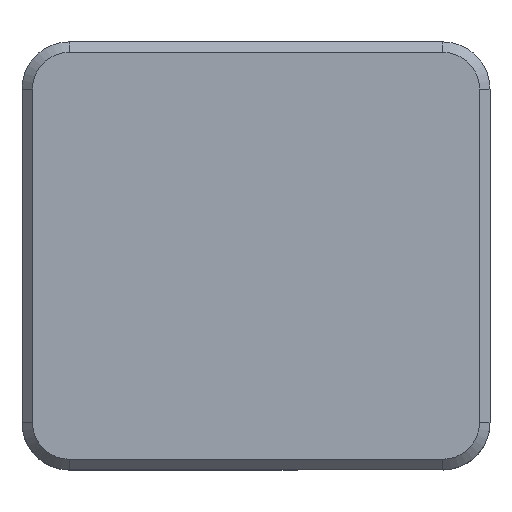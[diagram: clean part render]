
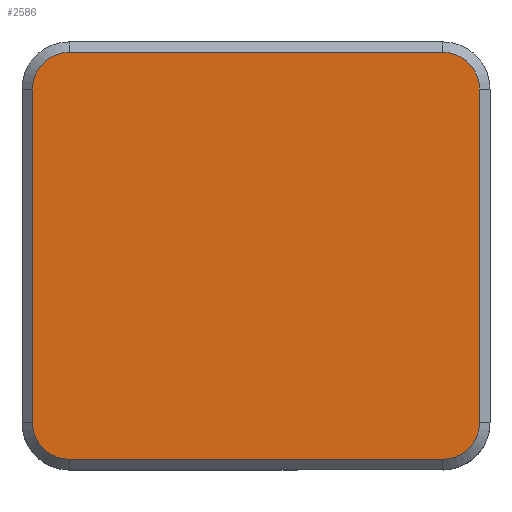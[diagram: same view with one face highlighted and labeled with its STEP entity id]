
A CAD part, top view. The second image highlights one B-rep face of the part: STEP entity #2586.
In plain terms, the highlighted planar face has unit normal (0, 0, 1).
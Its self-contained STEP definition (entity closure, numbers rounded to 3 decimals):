
#100 = PLANE('',#101);
#101 = AXIS2_PLACEMENT_3D('',#102,#103,#104);
#102 = CARTESIAN_POINT('',(-58.815,14.7,47.75));
#103 = DIRECTION('',(0.,0.707,-0.707));
#104 = DIRECTION('',(-1.,-0.,-0.));
#823 = CONICAL_SURFACE('',#824,4.5,0.785);
#824 = AXIS2_PLACEMENT_3D('',#825,#826,#827);
#825 = CARTESIAN_POINT('',(-23.185,18.7,47.25));
#826 = DIRECTION('',(-0.,-0.,-1.));
#827 = DIRECTION('',(0.,-1.,0.));
#839 = VERTEX_POINT('',#840);
#840 = CARTESIAN_POINT('',(-58.815,15.2,48.25));
#853 = CONICAL_SURFACE('',#854,4.5,0.785);
#854 = AXIS2_PLACEMENT_3D('',#855,#856,#857);
#855 = CARTESIAN_POINT('',(-58.815,18.7,47.25));
#856 = DIRECTION('',(-0.,-0.,-1.));
#857 = DIRECTION('',(-1.,0.,0.));
#866 = VERTEX_POINT('',#867);
#867 = CARTESIAN_POINT('',(-23.185,15.2,48.25));
#886 = EDGE_CURVE('',#839,#866,#887,.T.);
#887 = SURFACE_CURVE('',#888,(#892,#899),.PCURVE_S1.);
#888 = LINE('',#889,#890);
#889 = CARTESIAN_POINT('',(-58.815,15.2,48.25));
#890 = VECTOR('',#891,1.);
#891 = DIRECTION('',(1.,0.,0.));
#892 = PCURVE('',#100,#893);
#893 = DEFINITIONAL_REPRESENTATION('',(#894),#898);
#894 = LINE('',#895,#896);
#895 = CARTESIAN_POINT('',(-0.,0.707));
#896 = VECTOR('',#897,1.);
#897 = DIRECTION('',(-1.,0.));
#898 = ( GEOMETRIC_REPRESENTATION_CONTEXT(2) 
PARAMETRIC_REPRESENTATION_CONTEXT() REPRESENTATION_CONTEXT('2D SPACE',''
  ) );
#899 = PCURVE('',#900,#905);
#900 = PLANE('',#901);
#901 = AXIS2_PLACEMENT_3D('',#902,#903,#904);
#902 = CARTESIAN_POINT('',(-41.,34.6,48.25));
#903 = DIRECTION('',(0.,0.,1.));
#904 = DIRECTION('',(1.,0.,-0.));
#905 = DEFINITIONAL_REPRESENTATION('',(#906),#910);
#906 = LINE('',#907,#908);
#907 = CARTESIAN_POINT('',(-17.815,-19.4));
#908 = VECTOR('',#909,1.);
#909 = DIRECTION('',(1.,0.));
#910 = ( GEOMETRIC_REPRESENTATION_CONTEXT(2) 
PARAMETRIC_REPRESENTATION_CONTEXT() REPRESENTATION_CONTEXT('2D SPACE',''
  ) );
#2386 = VERTEX_POINT('',#2387);
#2387 = CARTESIAN_POINT('',(-19.685,18.7,48.25));
#2400 = PLANE('',#2401);
#2401 = AXIS2_PLACEMENT_3D('',#2402,#2403,#2404);
#2402 = CARTESIAN_POINT('',(-19.185,18.7,47.75));
#2403 = DIRECTION('',(-0.707,0.,-0.707));
#2404 = DIRECTION('',(-0.,-1.,-0.));
#2411 = EDGE_CURVE('',#866,#2386,#2412,.T.);
#2412 = SURFACE_CURVE('',#2413,(#2418,#2425),.PCURVE_S1.);
#2413 = CIRCLE('',#2414,3.5);
#2414 = AXIS2_PLACEMENT_3D('',#2415,#2416,#2417);
#2415 = CARTESIAN_POINT('',(-23.185,18.7,48.25));
#2416 = DIRECTION('',(0.,0.,1.));
#2417 = DIRECTION('',(0.,-1.,0.));
#2418 = PCURVE('',#823,#2419);
#2419 = DEFINITIONAL_REPRESENTATION('',(#2420),#2424);
#2420 = LINE('',#2421,#2422);
#2421 = CARTESIAN_POINT('',(-0.,-1.));
#2422 = VECTOR('',#2423,1.);
#2423 = DIRECTION('',(-1.,-0.));
#2424 = ( GEOMETRIC_REPRESENTATION_CONTEXT(2) 
PARAMETRIC_REPRESENTATION_CONTEXT() REPRESENTATION_CONTEXT('2D SPACE',''
  ) );
#2425 = PCURVE('',#900,#2426);
#2426 = DEFINITIONAL_REPRESENTATION('',(#2427),#2431);
#2427 = CIRCLE('',#2428,3.5);
#2428 = AXIS2_PLACEMENT_2D('',#2429,#2430);
#2429 = CARTESIAN_POINT('',(17.815,-15.9));
#2430 = DIRECTION('',(0.,-1.));
#2431 = ( GEOMETRIC_REPRESENTATION_CONTEXT(2) 
PARAMETRIC_REPRESENTATION_CONTEXT() REPRESENTATION_CONTEXT('2D SPACE',''
  ) );
#2538 = VERTEX_POINT('',#2539);
#2539 = CARTESIAN_POINT('',(-62.315,18.7,48.25));
#2552 = PLANE('',#2553);
#2553 = AXIS2_PLACEMENT_3D('',#2554,#2555,#2556);
#2554 = CARTESIAN_POINT('',(-62.815,50.5,47.75));
#2555 = DIRECTION('',(0.707,0.,-0.707));
#2556 = DIRECTION('',(-0.,1.,-0.));
#2565 = EDGE_CURVE('',#2538,#839,#2566,.T.);
#2566 = SURFACE_CURVE('',#2567,(#2572,#2579),.PCURVE_S1.);
#2567 = CIRCLE('',#2568,3.5);
#2568 = AXIS2_PLACEMENT_3D('',#2569,#2570,#2571);
#2569 = CARTESIAN_POINT('',(-58.815,18.7,48.25));
#2570 = DIRECTION('',(0.,0.,1.));
#2571 = DIRECTION('',(-1.,0.,0.));
#2572 = PCURVE('',#853,#2573);
#2573 = DEFINITIONAL_REPRESENTATION('',(#2574),#2578);
#2574 = LINE('',#2575,#2576);
#2575 = CARTESIAN_POINT('',(-0.,-1.));
#2576 = VECTOR('',#2577,1.);
#2577 = DIRECTION('',(-1.,-0.));
#2578 = ( GEOMETRIC_REPRESENTATION_CONTEXT(2) 
PARAMETRIC_REPRESENTATION_CONTEXT() REPRESENTATION_CONTEXT('2D SPACE',''
  ) );
#2579 = PCURVE('',#900,#2580);
#2580 = DEFINITIONAL_REPRESENTATION('',(#2581),#2585);
#2581 = CIRCLE('',#2582,3.5);
#2582 = AXIS2_PLACEMENT_2D('',#2583,#2584);
#2583 = CARTESIAN_POINT('',(-17.815,-15.9));
#2584 = DIRECTION('',(-1.,0.));
#2585 = ( GEOMETRIC_REPRESENTATION_CONTEXT(2) 
PARAMETRIC_REPRESENTATION_CONTEXT() REPRESENTATION_CONTEXT('2D SPACE',''
  ) );
#2586 = ADVANCED_FACE('',(#2587),#900,.T.);
#2587 = FACE_BOUND('',#2588,.T.);
#2588 = EDGE_LOOP('',(#2589,#2590,#2591,#2614,#2643,#2671,#2700,#2721));
#2589 = ORIENTED_EDGE('',*,*,#886,.T.);
#2590 = ORIENTED_EDGE('',*,*,#2411,.T.);
#2591 = ORIENTED_EDGE('',*,*,#2592,.T.);
#2592 = EDGE_CURVE('',#2386,#2593,#2595,.T.);
#2593 = VERTEX_POINT('',#2594);
#2594 = CARTESIAN_POINT('',(-19.685,50.5,48.25));
#2595 = SURFACE_CURVE('',#2596,(#2600,#2607),.PCURVE_S1.);
#2596 = LINE('',#2597,#2598);
#2597 = CARTESIAN_POINT('',(-19.685,18.7,48.25));
#2598 = VECTOR('',#2599,1.);
#2599 = DIRECTION('',(0.,1.,0.));
#2600 = PCURVE('',#900,#2601);
#2601 = DEFINITIONAL_REPRESENTATION('',(#2602),#2606);
#2602 = LINE('',#2603,#2604);
#2603 = CARTESIAN_POINT('',(21.315,-15.9));
#2604 = VECTOR('',#2605,1.);
#2605 = DIRECTION('',(0.,1.));
#2606 = ( GEOMETRIC_REPRESENTATION_CONTEXT(2) 
PARAMETRIC_REPRESENTATION_CONTEXT() REPRESENTATION_CONTEXT('2D SPACE',''
  ) );
#2607 = PCURVE('',#2400,#2608);
#2608 = DEFINITIONAL_REPRESENTATION('',(#2609),#2613);
#2609 = LINE('',#2610,#2611);
#2610 = CARTESIAN_POINT('',(-0.,0.707));
#2611 = VECTOR('',#2612,1.);
#2612 = DIRECTION('',(-1.,0.));
#2613 = ( GEOMETRIC_REPRESENTATION_CONTEXT(2) 
PARAMETRIC_REPRESENTATION_CONTEXT() REPRESENTATION_CONTEXT('2D SPACE',''
  ) );
#2614 = ORIENTED_EDGE('',*,*,#2615,.T.);
#2615 = EDGE_CURVE('',#2593,#2616,#2618,.T.);
#2616 = VERTEX_POINT('',#2617);
#2617 = CARTESIAN_POINT('',(-23.185,54.,48.25));
#2618 = SURFACE_CURVE('',#2619,(#2624,#2631),.PCURVE_S1.);
#2619 = CIRCLE('',#2620,3.5);
#2620 = AXIS2_PLACEMENT_3D('',#2621,#2622,#2623);
#2621 = CARTESIAN_POINT('',(-23.185,50.5,48.25));
#2622 = DIRECTION('',(0.,0.,1.));
#2623 = DIRECTION('',(1.,0.,-0.));
#2624 = PCURVE('',#900,#2625);
#2625 = DEFINITIONAL_REPRESENTATION('',(#2626),#2630);
#2626 = CIRCLE('',#2627,3.5);
#2627 = AXIS2_PLACEMENT_2D('',#2628,#2629);
#2628 = CARTESIAN_POINT('',(17.815,15.9));
#2629 = DIRECTION('',(1.,0.));
#2630 = ( GEOMETRIC_REPRESENTATION_CONTEXT(2) 
PARAMETRIC_REPRESENTATION_CONTEXT() REPRESENTATION_CONTEXT('2D SPACE',''
  ) );
#2631 = PCURVE('',#2632,#2637);
#2632 = CONICAL_SURFACE('',#2633,4.5,0.785);
#2633 = AXIS2_PLACEMENT_3D('',#2634,#2635,#2636);
#2634 = CARTESIAN_POINT('',(-23.185,50.5,47.25));
#2635 = DIRECTION('',(-0.,-0.,-1.));
#2636 = DIRECTION('',(1.,0.,0.));
#2637 = DEFINITIONAL_REPRESENTATION('',(#2638),#2642);
#2638 = LINE('',#2639,#2640);
#2639 = CARTESIAN_POINT('',(-0.,-1.));
#2640 = VECTOR('',#2641,1.);
#2641 = DIRECTION('',(-1.,-0.));
#2642 = ( GEOMETRIC_REPRESENTATION_CONTEXT(2) 
PARAMETRIC_REPRESENTATION_CONTEXT() REPRESENTATION_CONTEXT('2D SPACE',''
  ) );
#2643 = ORIENTED_EDGE('',*,*,#2644,.T.);
#2644 = EDGE_CURVE('',#2616,#2645,#2647,.T.);
#2645 = VERTEX_POINT('',#2646);
#2646 = CARTESIAN_POINT('',(-58.815,54.,48.25));
#2647 = SURFACE_CURVE('',#2648,(#2652,#2659),.PCURVE_S1.);
#2648 = LINE('',#2649,#2650);
#2649 = CARTESIAN_POINT('',(-23.185,54.,48.25));
#2650 = VECTOR('',#2651,1.);
#2651 = DIRECTION('',(-1.,0.,0.));
#2652 = PCURVE('',#900,#2653);
#2653 = DEFINITIONAL_REPRESENTATION('',(#2654),#2658);
#2654 = LINE('',#2655,#2656);
#2655 = CARTESIAN_POINT('',(17.815,19.4));
#2656 = VECTOR('',#2657,1.);
#2657 = DIRECTION('',(-1.,0.));
#2658 = ( GEOMETRIC_REPRESENTATION_CONTEXT(2) 
PARAMETRIC_REPRESENTATION_CONTEXT() REPRESENTATION_CONTEXT('2D SPACE',''
  ) );
#2659 = PCURVE('',#2660,#2665);
#2660 = PLANE('',#2661);
#2661 = AXIS2_PLACEMENT_3D('',#2662,#2663,#2664);
#2662 = CARTESIAN_POINT('',(-23.185,54.5,47.75));
#2663 = DIRECTION('',(0.,-0.707,-0.707));
#2664 = DIRECTION('',(1.,0.,-0.));
#2665 = DEFINITIONAL_REPRESENTATION('',(#2666),#2670);
#2666 = LINE('',#2667,#2668);
#2667 = CARTESIAN_POINT('',(-0.,0.707));
#2668 = VECTOR('',#2669,1.);
#2669 = DIRECTION('',(-1.,0.));
#2670 = ( GEOMETRIC_REPRESENTATION_CONTEXT(2) 
PARAMETRIC_REPRESENTATION_CONTEXT() REPRESENTATION_CONTEXT('2D SPACE',''
  ) );
#2671 = ORIENTED_EDGE('',*,*,#2672,.T.);
#2672 = EDGE_CURVE('',#2645,#2673,#2675,.T.);
#2673 = VERTEX_POINT('',#2674);
#2674 = CARTESIAN_POINT('',(-62.315,50.5,48.25));
#2675 = SURFACE_CURVE('',#2676,(#2681,#2688),.PCURVE_S1.);
#2676 = CIRCLE('',#2677,3.5);
#2677 = AXIS2_PLACEMENT_3D('',#2678,#2679,#2680);
#2678 = CARTESIAN_POINT('',(-58.815,50.5,48.25));
#2679 = DIRECTION('',(0.,0.,1.));
#2680 = DIRECTION('',(0.,1.,-0.));
#2681 = PCURVE('',#900,#2682);
#2682 = DEFINITIONAL_REPRESENTATION('',(#2683),#2687);
#2683 = CIRCLE('',#2684,3.5);
#2684 = AXIS2_PLACEMENT_2D('',#2685,#2686);
#2685 = CARTESIAN_POINT('',(-17.815,15.9));
#2686 = DIRECTION('',(0.,1.));
#2687 = ( GEOMETRIC_REPRESENTATION_CONTEXT(2) 
PARAMETRIC_REPRESENTATION_CONTEXT() REPRESENTATION_CONTEXT('2D SPACE',''
  ) );
#2688 = PCURVE('',#2689,#2694);
#2689 = CONICAL_SURFACE('',#2690,4.5,0.785);
#2690 = AXIS2_PLACEMENT_3D('',#2691,#2692,#2693);
#2691 = CARTESIAN_POINT('',(-58.815,50.5,47.25));
#2692 = DIRECTION('',(-0.,-0.,-1.));
#2693 = DIRECTION('',(0.,1.,-0.));
#2694 = DEFINITIONAL_REPRESENTATION('',(#2695),#2699);
#2695 = LINE('',#2696,#2697);
#2696 = CARTESIAN_POINT('',(-0.,-1.));
#2697 = VECTOR('',#2698,1.);
#2698 = DIRECTION('',(-1.,-0.));
#2699 = ( GEOMETRIC_REPRESENTATION_CONTEXT(2) 
PARAMETRIC_REPRESENTATION_CONTEXT() REPRESENTATION_CONTEXT('2D SPACE',''
  ) );
#2700 = ORIENTED_EDGE('',*,*,#2701,.T.);
#2701 = EDGE_CURVE('',#2673,#2538,#2702,.T.);
#2702 = SURFACE_CURVE('',#2703,(#2707,#2714),.PCURVE_S1.);
#2703 = LINE('',#2704,#2705);
#2704 = CARTESIAN_POINT('',(-62.315,50.5,48.25));
#2705 = VECTOR('',#2706,1.);
#2706 = DIRECTION('',(0.,-1.,0.));
#2707 = PCURVE('',#900,#2708);
#2708 = DEFINITIONAL_REPRESENTATION('',(#2709),#2713);
#2709 = LINE('',#2710,#2711);
#2710 = CARTESIAN_POINT('',(-21.315,15.9));
#2711 = VECTOR('',#2712,1.);
#2712 = DIRECTION('',(0.,-1.));
#2713 = ( GEOMETRIC_REPRESENTATION_CONTEXT(2) 
PARAMETRIC_REPRESENTATION_CONTEXT() REPRESENTATION_CONTEXT('2D SPACE',''
  ) );
#2714 = PCURVE('',#2552,#2715);
#2715 = DEFINITIONAL_REPRESENTATION('',(#2716),#2720);
#2716 = LINE('',#2717,#2718);
#2717 = CARTESIAN_POINT('',(-0.,0.707));
#2718 = VECTOR('',#2719,1.);
#2719 = DIRECTION('',(-1.,0.));
#2720 = ( GEOMETRIC_REPRESENTATION_CONTEXT(2) 
PARAMETRIC_REPRESENTATION_CONTEXT() REPRESENTATION_CONTEXT('2D SPACE',''
  ) );
#2721 = ORIENTED_EDGE('',*,*,#2565,.T.);
